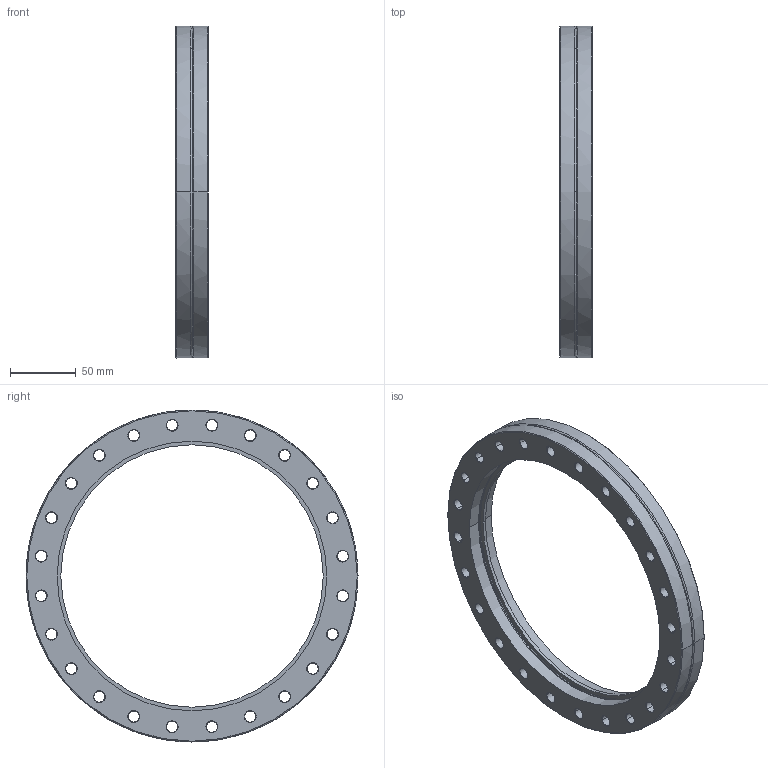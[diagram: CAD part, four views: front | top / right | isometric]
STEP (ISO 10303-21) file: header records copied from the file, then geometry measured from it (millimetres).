
FILE_DESCRIPTION((''),'2;1');
FILE_NAME('N:\Transfer\Berger Martin\Leybold\C15\83547.stp','2005-02-07T08:56:52',('VCRC_L'),(''),'Autodesk Inventor 9','Autodesk Inventor 9','');
FILE_SCHEMA(('AUTOMOTIVE_DESIGN { 1 0 10303 214 1 1 1 1 }'));
Length unit declared in the file: millimetre
Products named in the file (1): 83547
Bounding box: 24.5 x 253 x 253 mm (x, y, z)
Volume: 384238.2 mm3; surface area: 85879.2 mm2
Topology: 1 solids, 1 shells, 189 faces, 449 edges, 264 vertices
Faces by surface type: cone 110, bspline 56, cylinder 12, torus 6, plane 5
Entity records: 6618 total; most frequent: CARTESIAN_POINT 2195, DIRECTION 965, ORIENTED_EDGE 898, EDGE_CURVE 449, AXIS2_PLACEMENT_3D 398, VERTEX_POINT 264, CIRCLE 264, EDGE_LOOP 241
